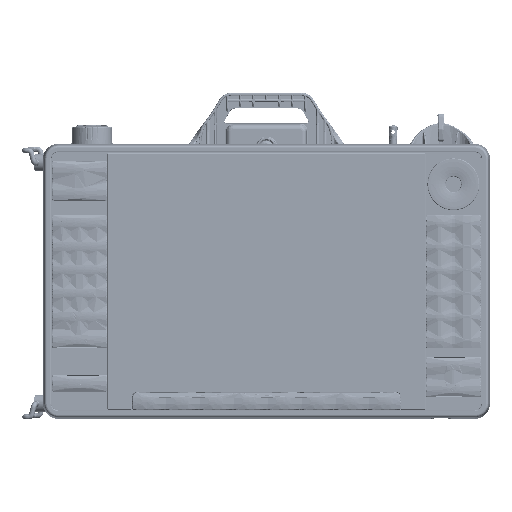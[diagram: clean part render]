
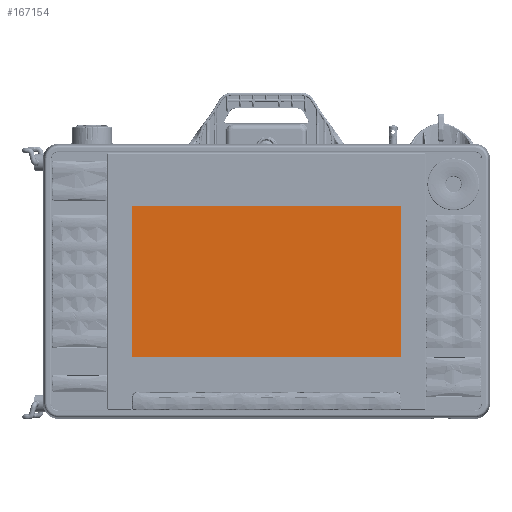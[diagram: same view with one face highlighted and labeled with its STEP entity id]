
A CAD part, top view. The second image highlights one B-rep face of the part: STEP entity #167154.
In plain terms, the highlighted planar face has unit normal (0, 0, 1).
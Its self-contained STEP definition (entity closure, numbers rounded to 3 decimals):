
#28598 = ORIENTED_EDGE ( 'NONE', *, *, #231612, .T. ) ;
#29083 = CARTESIAN_POINT ( 'NONE',  ( -243.656, -64.499, 1008.78 ) ) ;
#34284 = VECTOR ( 'NONE', #339123, 1000. ) ;
#51373 = ORIENTED_EDGE ( 'NONE', *, *, #356725, .T. ) ;
#57161 = CARTESIAN_POINT ( 'NONE',  ( -243.656, -64.499, 1008.78 ) ) ;
#57177 = VERTEX_POINT ( 'NONE', #29083 ) ;
#74958 = VECTOR ( 'NONE', #306325, 1000. ) ;
#76102 = FACE_OUTER_BOUND ( 'NONE', #140352, .T. ) ;
#77860 = DIRECTION ( 'NONE',  ( 0., 0., 1. ) ) ;
#79019 = VERTEX_POINT ( 'NONE', #236421 ) ;
#106889 = PLANE ( 'NONE',  #218722 ) ;
#111135 = DIRECTION ( 'NONE',  ( -1., 0., 0. ) ) ;
#113036 = CARTESIAN_POINT ( 'NONE',  ( -398.866, -64.499, 1008.78 ) ) ;
#140352 = EDGE_LOOP ( 'NONE', ( #51373, #232173, #233994, #28598 ) ) ;
#167154 = ADVANCED_FACE ( 'NONE', ( #76102 ), #106889, .T. ) ;
#169816 = DIRECTION ( 'NONE',  ( 0., 1., 0. ) ) ;
#178655 = EDGE_CURVE ( 'NONE', #79019, #235773, #311870, .T. ) ;
#194702 = LINE ( 'NONE', #198280, #284711 ) ;
#198280 = CARTESIAN_POINT ( 'NONE',  ( -243.656, 22.421, 1008.78 ) ) ;
#218722 = AXIS2_PLACEMENT_3D ( 'NONE', #268902, #77860, #330604 ) ;
#224613 = CARTESIAN_POINT ( 'NONE',  ( -398.866, -64.499, 1008.78 ) ) ;
#226230 = LINE ( 'NONE', #57161, #358953 ) ;
#231612 = EDGE_CURVE ( 'NONE', #235773, #57177, #248156, .T. ) ;
#232173 = ORIENTED_EDGE ( 'NONE', *, *, #338211, .T. ) ;
#233994 = ORIENTED_EDGE ( 'NONE', *, *, #178655, .T. ) ;
#235773 = VERTEX_POINT ( 'NONE', #113036 ) ;
#236421 = CARTESIAN_POINT ( 'NONE',  ( -398.866, 22.421, 1008.78 ) ) ;
#246366 = CARTESIAN_POINT ( 'NONE',  ( -243.656, -64.499, 1008.78 ) ) ;
#248156 = LINE ( 'NONE', #246366, #74958 ) ;
#268902 = CARTESIAN_POINT ( 'NONE',  ( -321.261, -21.039, 1008.78 ) ) ;
#270233 = VERTEX_POINT ( 'NONE', #335313 ) ;
#284711 = VECTOR ( 'NONE', #111135, 1000. ) ;
#306325 = DIRECTION ( 'NONE',  ( 1., 0., 0. ) ) ;
#311870 = LINE ( 'NONE', #224613, #34284 ) ;
#330604 = DIRECTION ( 'NONE',  ( 1., 0., 0. ) ) ;
#335313 = CARTESIAN_POINT ( 'NONE',  ( -243.656, 22.421, 1008.78 ) ) ;
#338211 = EDGE_CURVE ( 'NONE', #270233, #79019, #194702, .T. ) ;
#339123 = DIRECTION ( 'NONE',  ( 0., -1., 0. ) ) ;
#356725 = EDGE_CURVE ( 'NONE', #57177, #270233, #226230, .T. ) ;
#358953 = VECTOR ( 'NONE', #169816, 1000. ) ;
